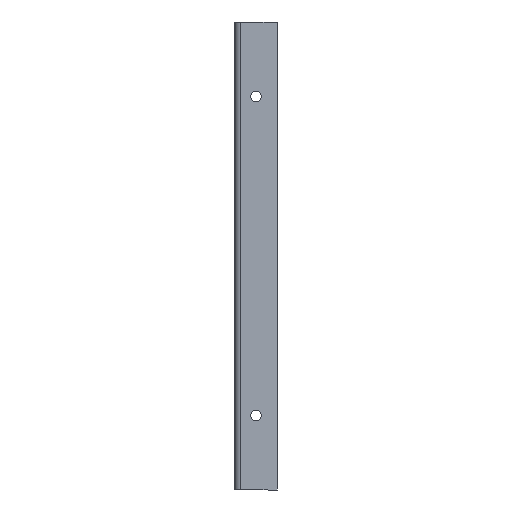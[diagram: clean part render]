
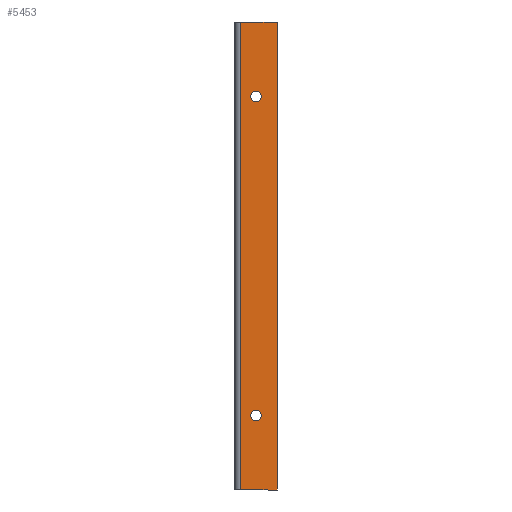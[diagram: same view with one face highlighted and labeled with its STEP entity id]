
A CAD part, front view. The second image highlights one B-rep face of the part: STEP entity #5453.
In plain terms, the highlighted planar face has unit normal (0, -1, 0).
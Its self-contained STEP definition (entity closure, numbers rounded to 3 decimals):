
#105 = VECTOR ( 'NONE', #4326, 1000. ) ;
#334 = CARTESIAN_POINT ( 'NONE',  ( 102.736, -2., -120. ) ) ;
#348 = CARTESIAN_POINT ( 'NONE',  ( 102.736, -2., 100. ) ) ;
#541 = EDGE_CURVE ( 'NONE', #3476, #1802, #5911, .T. ) ;
#587 = LINE ( 'NONE', #5500, #105 ) ;
#611 = FACE_OUTER_BOUND ( 'NONE', #3538, .T. ) ;
#639 = DIRECTION ( 'NONE',  ( 0., -1., 0. ) ) ;
#739 = DIRECTION ( 'NONE',  ( -1., 0., 0. ) ) ;
#781 = CIRCLE ( 'NONE', #3879, 2.5 ) ;
#839 = EDGE_CURVE ( 'NONE', #5831, #5862, #2829, .T. ) ;
#890 = AXIS2_PLACEMENT_3D ( 'NONE', #4992, #639, #5590 ) ;
#1194 = CARTESIAN_POINT ( 'NONE',  ( 120., -2., 100. ) ) ;
#1226 = CARTESIAN_POINT ( 'NONE',  ( 120., -2., -120. ) ) ;
#1334 = DIRECTION ( 'NONE',  ( 0., -1., 0. ) ) ;
#1405 = VERTEX_POINT ( 'NONE', #1501 ) ;
#1501 = CARTESIAN_POINT ( 'NONE',  ( 110., -2., 67.5 ) ) ;
#1802 = VERTEX_POINT ( 'NONE', #1226 ) ;
#1929 = CARTESIAN_POINT ( 'NONE',  ( 120., -2., -120. ) ) ;
#1956 = ORIENTED_EDGE ( 'NONE', *, *, #2452, .F. ) ;
#2108 = VERTEX_POINT ( 'NONE', #334 ) ;
#2109 = EDGE_CURVE ( 'NONE', #5862, #5831, #781, .T. ) ;
#2452 = EDGE_CURVE ( 'NONE', #1802, #2108, #4441, .T. ) ;
#2471 = CARTESIAN_POINT ( 'NONE',  ( 120., -2., 100. ) ) ;
#2523 = ORIENTED_EDGE ( 'NONE', *, *, #6014, .F. ) ;
#2599 = EDGE_LOOP ( 'NONE', ( #4741, #7542 ) ) ;
#2732 = EDGE_CURVE ( 'NONE', #1405, #4437, #3571, .T. ) ;
#2782 = DIRECTION ( 'NONE',  ( 0., 0., -1. ) ) ;
#2800 = ORIENTED_EDGE ( 'NONE', *, *, #4319, .T. ) ;
#2829 = CIRCLE ( 'NONE', #3665, 2.5 ) ;
#2883 = DIRECTION ( 'NONE',  ( 0., -1., 0. ) ) ;
#2934 = VERTEX_POINT ( 'NONE', #3136 ) ;
#2941 = CARTESIAN_POINT ( 'NONE',  ( 110., -2., 62.5 ) ) ;
#3136 = CARTESIAN_POINT ( 'NONE',  ( 102.736, -2., 100. ) ) ;
#3181 = DIRECTION ( 'NONE',  ( 0., 0., -1. ) ) ;
#3207 = PLANE ( 'NONE',  #7175 ) ;
#3253 = DIRECTION ( 'NONE',  ( 0., -1., 0. ) ) ;
#3476 = VERTEX_POINT ( 'NONE', #1194 ) ;
#3538 = EDGE_LOOP ( 'NONE', ( #2523, #2800, #1956, #5969 ) ) ;
#3571 = CIRCLE ( 'NONE', #6198, 2.5 ) ;
#3665 = AXIS2_PLACEMENT_3D ( 'NONE', #6303, #3253, #6963 ) ;
#3674 = VECTOR ( 'NONE', #3785, 1000. ) ;
#3785 = DIRECTION ( 'NONE',  ( -1., 0., 0. ) ) ;
#3879 = AXIS2_PLACEMENT_3D ( 'NONE', #7104, #4057, #4662 ) ;
#4057 = DIRECTION ( 'NONE',  ( 0., -1., 0. ) ) ;
#4319 = EDGE_CURVE ( 'NONE', #2934, #2108, #5561, .T. ) ;
#4326 = DIRECTION ( 'NONE',  ( 1., 0., 0. ) ) ;
#4437 = VERTEX_POINT ( 'NONE', #2941 ) ;
#4438 = CARTESIAN_POINT ( 'NONE',  ( 120., -2., 100. ) ) ;
#4441 = LINE ( 'NONE', #1929, #3674 ) ;
#4606 = EDGE_LOOP ( 'NONE', ( #5510, #4971 ) ) ;
#4655 = CARTESIAN_POINT ( 'NONE',  ( 110., -2., 65. ) ) ;
#4662 = DIRECTION ( 'NONE',  ( 0., 0., -1. ) ) ;
#4741 = ORIENTED_EDGE ( 'NONE', *, *, #2732, .F. ) ;
#4770 = CARTESIAN_POINT ( 'NONE',  ( 110., -2., -87.5 ) ) ;
#4971 = ORIENTED_EDGE ( 'NONE', *, *, #2109, .F. ) ;
#4992 = CARTESIAN_POINT ( 'NONE',  ( 110., -2., 65. ) ) ;
#5271 = DIRECTION ( 'NONE',  ( 0., 0., -1. ) ) ;
#5453 = ADVANCED_FACE ( 'NONE', ( #5748, #5813, #611 ), #3207, .T. ) ;
#5475 = EDGE_CURVE ( 'NONE', #4437, #1405, #6040, .T. ) ;
#5500 = CARTESIAN_POINT ( 'NONE',  ( 120., -2., 100. ) ) ;
#5510 = ORIENTED_EDGE ( 'NONE', *, *, #839, .F. ) ;
#5561 = LINE ( 'NONE', #348, #7575 ) ;
#5590 = DIRECTION ( 'NONE',  ( 0., 0., -1. ) ) ;
#5748 = FACE_BOUND ( 'NONE', #4606, .T. ) ;
#5813 = FACE_BOUND ( 'NONE', #2599, .T. ) ;
#5831 = VERTEX_POINT ( 'NONE', #7253 ) ;
#5862 = VERTEX_POINT ( 'NONE', #4770 ) ;
#5911 = LINE ( 'NONE', #4438, #6285 ) ;
#5969 = ORIENTED_EDGE ( 'NONE', *, *, #541, .F. ) ;
#6014 = EDGE_CURVE ( 'NONE', #2934, #3476, #587, .T. ) ;
#6040 = CIRCLE ( 'NONE', #890, 2.5 ) ;
#6198 = AXIS2_PLACEMENT_3D ( 'NONE', #4655, #2883, #5271 ) ;
#6285 = VECTOR ( 'NONE', #3181, 1000. ) ;
#6303 = CARTESIAN_POINT ( 'NONE',  ( 110., -2., -85. ) ) ;
#6963 = DIRECTION ( 'NONE',  ( 0., 0., -1. ) ) ;
#7104 = CARTESIAN_POINT ( 'NONE',  ( 110., -2., -85. ) ) ;
#7175 = AXIS2_PLACEMENT_3D ( 'NONE', #2471, #1334, #739 ) ;
#7253 = CARTESIAN_POINT ( 'NONE',  ( 110., -2., -82.5 ) ) ;
#7542 = ORIENTED_EDGE ( 'NONE', *, *, #5475, .F. ) ;
#7575 = VECTOR ( 'NONE', #2782, 1000. ) ;
